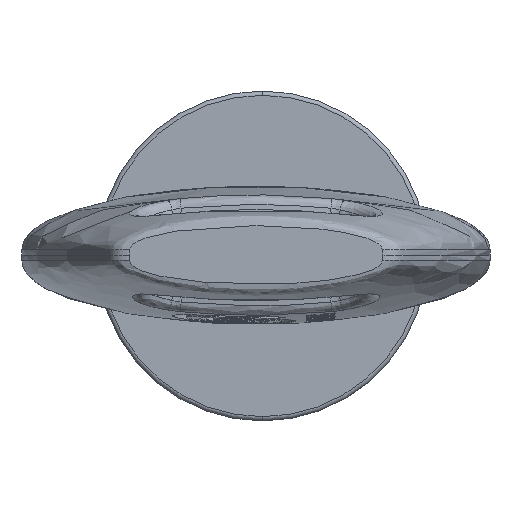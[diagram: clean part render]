
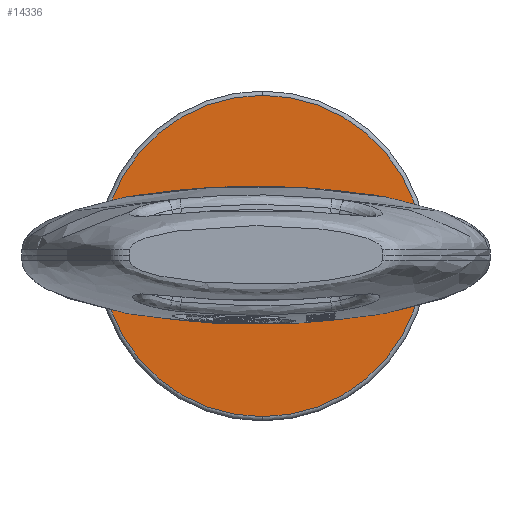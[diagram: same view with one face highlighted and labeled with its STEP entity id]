
A CAD part, front view. The second image highlights one B-rep face of the part: STEP entity #14336.
In plain terms, the highlighted planar face has unit normal (0, -1, 0).
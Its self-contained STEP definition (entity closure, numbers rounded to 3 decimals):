
#737 = CARTESIAN_POINT ( 'NONE',  ( 3279.763, 1113.251, 11.207 ) ) ;
#2002 = CARTESIAN_POINT ( 'NONE',  ( 3282.032, 1113.251, 12.257 ) ) ;
#2025 = DIRECTION ( 'NONE',  ( 0., -1., 0. ) ) ;
#2131 = CARTESIAN_POINT ( 'NONE',  ( 3279.763, 1113.251, 11.207 ) ) ;
#2738 = EDGE_CURVE ( 'NONE', #2766, #5391, #16729, .T. ) ;
#2766 = VERTEX_POINT ( 'NONE', #31330 ) ;
#2775 = AXIS2_PLACEMENT_3D ( 'NONE', #31445, #28244, #14193 ) ;
#3507 = EDGE_CURVE ( 'NONE', #9284, #6706, #22239, .T. ) ;
#3813 = AXIS2_PLACEMENT_3D ( 'NONE', #33598, #2025, #44212 ) ;
#4198 = PLANE ( 'NONE',  #14488 ) ;
#4926 = CIRCLE ( 'NONE', #22574, 2.5 ) ;
#4978 = EDGE_CURVE ( 'NONE', #38825, #19109, #9432, .T. ) ;
#5391 = VERTEX_POINT ( 'NONE', #21939 ) ;
#6706 = VERTEX_POINT ( 'NONE', #27842 ) ;
#6826 = DIRECTION ( 'NONE',  ( 1., 0., 0. ) ) ;
#7606 = DIRECTION ( 'NONE',  ( 0., 0., 1. ) ) ;
#9007 = CIRCLE ( 'NONE', #3813, 7.55 ) ;
#9284 = VERTEX_POINT ( 'NONE', #31814 ) ;
#9361 = CARTESIAN_POINT ( 'NONE',  ( 3282.032, 1113.251, 12.257 ) ) ;
#9432 = CIRCLE ( 'NONE', #2775, 7.55 ) ;
#10046 = EDGE_CURVE ( 'NONE', #2766, #39350, #13752, .T. ) ;
#10205 = DIRECTION ( 'NONE',  ( 0., -1., 0. ) ) ;
#11464 = DIRECTION ( 'NONE',  ( 0., 0., 1. ) ) ;
#12591 = ORIENTED_EDGE ( 'NONE', *, *, #32601, .T. ) ;
#13344 = CARTESIAN_POINT ( 'NONE',  ( 3289.206, 1113.251, 13.307 ) ) ;
#13548 = VECTOR ( 'NONE', #28643, 1000. ) ;
#13752 = LINE ( 'NONE', #20894, #14016 ) ;
#14016 = VECTOR ( 'NONE', #6826, 1000. ) ;
#14193 = DIRECTION ( 'NONE',  ( 0., 0., 1. ) ) ;
#14215 = EDGE_CURVE ( 'NONE', #24354, #39350, #4926, .T. ) ;
#14336 = ADVANCED_FACE ( 'NONE', ( #35776, #21254 ), #4198, .T. ) ;
#14488 = AXIS2_PLACEMENT_3D ( 'NONE', #18268, #43381, #28410 ) ;
#14798 = ORIENTED_EDGE ( 'NONE', *, *, #3507, .F. ) ;
#15845 = DIRECTION ( 'NONE',  ( 0., 0., 1. ) ) ;
#16627 = VERTEX_POINT ( 'NONE', #13344 ) ;
#16729 = CIRCLE ( 'NONE', #18946, 7.25 ) ;
#16891 = CARTESIAN_POINT ( 'NONE',  ( 3282.032, 1113.251, 19.807 ) ) ;
#16904 = EDGE_CURVE ( 'NONE', #42352, #9284, #39964, .T. ) ;
#18268 = CARTESIAN_POINT ( 'NONE',  ( 3290.337, 1113.251, 3.952 ) ) ;
#18750 = VECTOR ( 'NONE', #21580, 1000. ) ;
#18751 = ORIENTED_EDGE ( 'NONE', *, *, #16904, .F. ) ;
#18946 = AXIS2_PLACEMENT_3D ( 'NONE', #21426, #27888, #7606 ) ;
#19109 = VERTEX_POINT ( 'NONE', #30565 ) ;
#19578 = CARTESIAN_POINT ( 'NONE',  ( 3289.206, 1113.251, 11.207 ) ) ;
#20080 = AXIS2_PLACEMENT_3D ( 'NONE', #2002, #43512, #32884 ) ;
#20230 = EDGE_CURVE ( 'NONE', #42352, #5391, #39945, .T. ) ;
#20485 = ORIENTED_EDGE ( 'NONE', *, *, #28876, .T. ) ;
#20743 = CARTESIAN_POINT ( 'NONE',  ( 3279.763, 1113.251, 13.307 ) ) ;
#20894 = CARTESIAN_POINT ( 'NONE',  ( 3274.859, 1113.251, 13.307 ) ) ;
#21164 = AXIS2_PLACEMENT_3D ( 'NONE', #42577, #28966, #11464 ) ;
#21254 = FACE_BOUND ( 'NONE', #25658, .T. ) ;
#21426 = CARTESIAN_POINT ( 'NONE',  ( 3282.032, 1113.251, 12.257 ) ) ;
#21580 = DIRECTION ( 'NONE',  ( 1., 0., 0. ) ) ;
#21939 = CARTESIAN_POINT ( 'NONE',  ( 3274.859, 1113.251, 11.207 ) ) ;
#22239 = CIRCLE ( 'NONE', #32515, 2.5 ) ;
#22574 = AXIS2_PLACEMENT_3D ( 'NONE', #41778, #10205, #24266 ) ;
#22742 = DIRECTION ( 'NONE',  ( 0., -1., 0. ) ) ;
#24266 = DIRECTION ( 'NONE',  ( 0., 0., 1. ) ) ;
#24354 = VERTEX_POINT ( 'NONE', #36187 ) ;
#25658 = EDGE_LOOP ( 'NONE', ( #26477, #20485, #14798, #18751, #30891, #27910, #28599, #41935, #12591 ) ) ;
#26031 = LINE ( 'NONE', #26258, #33259 ) ;
#26258 = CARTESIAN_POINT ( 'NONE',  ( 3289.206, 1113.251, 11.207 ) ) ;
#26477 = ORIENTED_EDGE ( 'NONE', *, *, #34452, .F. ) ;
#27191 = ORIENTED_EDGE ( 'NONE', *, *, #28924, .T. ) ;
#27842 = CARTESIAN_POINT ( 'NONE',  ( 3284.301, 1113.251, 11.207 ) ) ;
#27888 = DIRECTION ( 'NONE',  ( 0., -1., 0. ) ) ;
#27910 = ORIENTED_EDGE ( 'NONE', *, *, #2738, .F. ) ;
#28244 = DIRECTION ( 'NONE',  ( 0., -1., 0. ) ) ;
#28410 = DIRECTION ( 'NONE',  ( 0., 0., -1. ) ) ;
#28599 = ORIENTED_EDGE ( 'NONE', *, *, #10046, .T. ) ;
#28643 = DIRECTION ( 'NONE',  ( -1., 0., 0. ) ) ;
#28876 = EDGE_CURVE ( 'NONE', #38012, #6706, #26031, .T. ) ;
#28924 = EDGE_CURVE ( 'NONE', #19109, #38825, #9007, .T. ) ;
#28966 = DIRECTION ( 'NONE',  ( 0., -1., 0. ) ) ;
#30285 = EDGE_LOOP ( 'NONE', ( #27191, #35053 ) ) ;
#30565 = CARTESIAN_POINT ( 'NONE',  ( 3282.032, 1113.251, 4.707 ) ) ;
#30891 = ORIENTED_EDGE ( 'NONE', *, *, #20230, .T. ) ;
#31330 = CARTESIAN_POINT ( 'NONE',  ( 3274.859, 1113.251, 13.307 ) ) ;
#31445 = CARTESIAN_POINT ( 'NONE',  ( 3282.032, 1113.251, 12.257 ) ) ;
#31814 = CARTESIAN_POINT ( 'NONE',  ( 3282.032, 1113.251, 9.757 ) ) ;
#32515 = AXIS2_PLACEMENT_3D ( 'NONE', #9361, #22742, #15845 ) ;
#32601 = EDGE_CURVE ( 'NONE', #24354, #16627, #35397, .T. ) ;
#32884 = DIRECTION ( 'NONE',  ( 0., 0., 1. ) ) ;
#33259 = VECTOR ( 'NONE', #43536, 1000. ) ;
#33598 = CARTESIAN_POINT ( 'NONE',  ( 3282.032, 1113.251, 12.257 ) ) ;
#34452 = EDGE_CURVE ( 'NONE', #38012, #16627, #38816, .T. ) ;
#35053 = ORIENTED_EDGE ( 'NONE', *, *, #4978, .T. ) ;
#35397 = LINE ( 'NONE', #39110, #18750 ) ;
#35776 = FACE_OUTER_BOUND ( 'NONE', #30285, .T. ) ;
#36187 = CARTESIAN_POINT ( 'NONE',  ( 3284.301, 1113.251, 13.307 ) ) ;
#38012 = VERTEX_POINT ( 'NONE', #19578 ) ;
#38816 = CIRCLE ( 'NONE', #21164, 7.25 ) ;
#38825 = VERTEX_POINT ( 'NONE', #16891 ) ;
#39110 = CARTESIAN_POINT ( 'NONE',  ( 3284.301, 1113.251, 13.307 ) ) ;
#39350 = VERTEX_POINT ( 'NONE', #20743 ) ;
#39945 = LINE ( 'NONE', #737, #13548 ) ;
#39964 = CIRCLE ( 'NONE', #20080, 2.5 ) ;
#41778 = CARTESIAN_POINT ( 'NONE',  ( 3282.032, 1113.251, 12.257 ) ) ;
#41935 = ORIENTED_EDGE ( 'NONE', *, *, #14215, .F. ) ;
#42352 = VERTEX_POINT ( 'NONE', #2131 ) ;
#42577 = CARTESIAN_POINT ( 'NONE',  ( 3282.032, 1113.251, 12.257 ) ) ;
#43381 = DIRECTION ( 'NONE',  ( 0., -1., 0. ) ) ;
#43512 = DIRECTION ( 'NONE',  ( 0., -1., 0. ) ) ;
#43536 = DIRECTION ( 'NONE',  ( -1., 0., 0. ) ) ;
#44212 = DIRECTION ( 'NONE',  ( 0., 0., 1. ) ) ;
